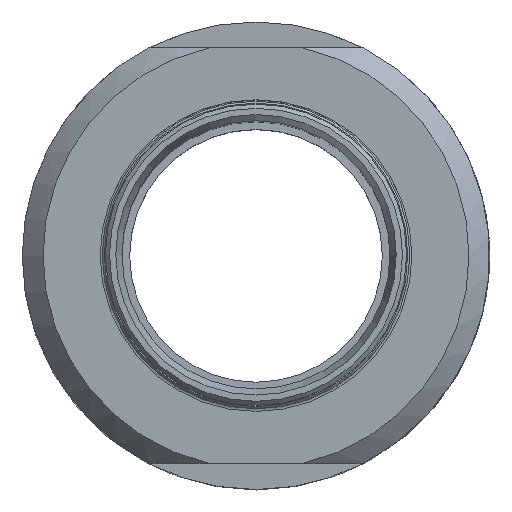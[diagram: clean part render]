
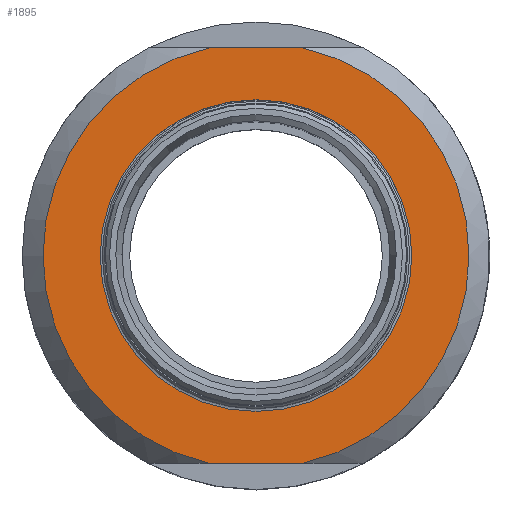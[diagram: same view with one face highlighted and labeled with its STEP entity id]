
A CAD part, top view. The second image highlights one B-rep face of the part: STEP entity #1895.
In plain terms, the highlighted planar face has unit normal (0, 0, 1).
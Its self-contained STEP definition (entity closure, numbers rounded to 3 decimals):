
#135 = CARTESIAN_POINT ( 'NONE',  ( 0., 10.25, 21. ) ) ;
#225 = AXIS2_PLACEMENT_3D ( 'NONE', #923, #1957, #2981 ) ;
#325 = FACE_BOUND ( 'NONE', #2318, .T. ) ;
#567 = EDGE_CURVE ( 'NONE', #2390, #2812, #1293, .T. ) ;
#585 = CARTESIAN_POINT ( 'NONE',  ( -23.067, 10., 21. ) ) ;
#605 = LINE ( 'NONE', #585, #816 ) ;
#655 = AXIS2_PLACEMENT_3D ( 'NONE', #3296, #3006, #1992 ) ;
#685 = DIRECTION ( 'NONE',  ( 0., 0., -1. ) ) ;
#688 = ORIENTED_EDGE ( 'NONE', *, *, #2014, .T. ) ;
#707 = AXIS2_PLACEMENT_3D ( 'NONE', #1219, #685, #2693 ) ;
#750 = CARTESIAN_POINT ( 'NONE',  ( -23.067, -10., 21. ) ) ;
#816 = VECTOR ( 'NONE', #2427, 1000. ) ;
#923 = CARTESIAN_POINT ( 'NONE',  ( 0., 0., 21. ) ) ;
#1171 = FACE_OUTER_BOUND ( 'NONE', #3039, .T. ) ;
#1203 = AXIS2_PLACEMENT_3D ( 'NONE', #135, #3245, #2699 ) ;
#1213 = ORIENTED_EDGE ( 'NONE', *, *, #2479, .F. ) ;
#1219 = CARTESIAN_POINT ( 'NONE',  ( 0., 0., 21. ) ) ;
#1293 = LINE ( 'NONE', #750, #2068 ) ;
#1318 = EDGE_CURVE ( 'NONE', #1671, #2309, #605, .T. ) ;
#1339 = CARTESIAN_POINT ( 'NONE',  ( -2.25, 10., 21. ) ) ;
#1413 = CIRCLE ( 'NONE', #707, 10.25 ) ;
#1546 = DIRECTION ( 'NONE',  ( 1., 0., 0. ) ) ;
#1593 = VERTEX_POINT ( 'NONE', #2599 ) ;
#1652 = CARTESIAN_POINT ( 'NONE',  ( -2.25, -10., 21. ) ) ;
#1668 = CARTESIAN_POINT ( 'NONE',  ( 2.25, -10., 21. ) ) ;
#1671 = VERTEX_POINT ( 'NONE', #2906 ) ;
#1895 = ADVANCED_FACE ( 'NONE', ( #325, #1171 ), #2189, .T. ) ;
#1903 = CIRCLE ( 'NONE', #225, 10.25 ) ;
#1957 = DIRECTION ( 'NONE',  ( 0., 0., -1. ) ) ;
#1992 = DIRECTION ( 'NONE',  ( -1., 0., 0. ) ) ;
#2014 = EDGE_CURVE ( 'NONE', #1593, #1593, #2118, .T. ) ;
#2068 = VECTOR ( 'NONE', #1546, 1000. ) ;
#2118 = CIRCLE ( 'NONE', #655, 7.5 ) ;
#2189 = PLANE ( 'NONE',  #1203 ) ;
#2309 = VERTEX_POINT ( 'NONE', #1339 ) ;
#2318 = EDGE_LOOP ( 'NONE', ( #688 ) ) ;
#2390 = VERTEX_POINT ( 'NONE', #1652 ) ;
#2427 = DIRECTION ( 'NONE',  ( -1., 0., 0. ) ) ;
#2479 = EDGE_CURVE ( 'NONE', #1671, #2812, #1413, .T. ) ;
#2496 = EDGE_CURVE ( 'NONE', #2390, #2309, #1903, .T. ) ;
#2599 = CARTESIAN_POINT ( 'NONE',  ( -7.5, 0., 21. ) ) ;
#2626 = ORIENTED_EDGE ( 'NONE', *, *, #2496, .F. ) ;
#2693 = DIRECTION ( 'NONE',  ( -1., 0., 0. ) ) ;
#2699 = DIRECTION ( 'NONE',  ( 1., 0., 0. ) ) ;
#2701 = ORIENTED_EDGE ( 'NONE', *, *, #1318, .T. ) ;
#2812 = VERTEX_POINT ( 'NONE', #1668 ) ;
#2906 = CARTESIAN_POINT ( 'NONE',  ( 2.25, 10., 21. ) ) ;
#2981 = DIRECTION ( 'NONE',  ( -1., 0., 0. ) ) ;
#3006 = DIRECTION ( 'NONE',  ( 0., 0., -1. ) ) ;
#3039 = EDGE_LOOP ( 'NONE', ( #2626, #3161, #1213, #2701 ) ) ;
#3161 = ORIENTED_EDGE ( 'NONE', *, *, #567, .T. ) ;
#3245 = DIRECTION ( 'NONE',  ( 0., 0., 1. ) ) ;
#3296 = CARTESIAN_POINT ( 'NONE',  ( 0., 0., 21. ) ) ;
